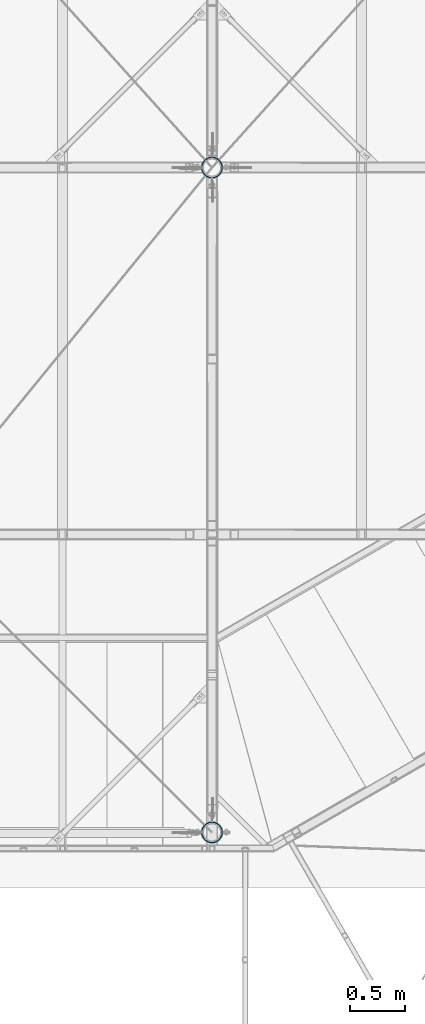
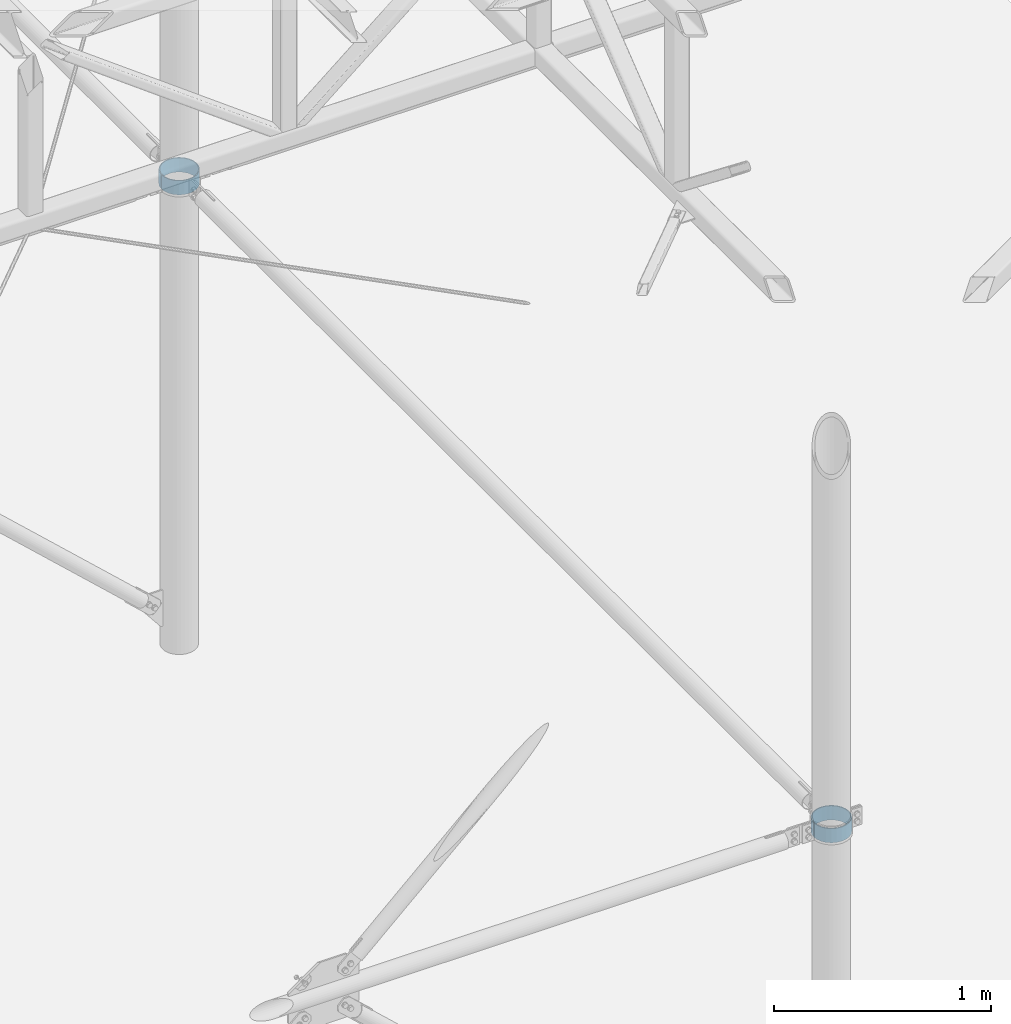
# One storey, part 132 of 132: 2 discrete accessories, 2 elements without a shape of their own.
"""IFC2X3 building model written with IfcOpenShell, lengths in millimetres."""

from ifc_helpers import new_model, si_unit, frame, origin_with_axes, place, context, subcontext, project, spatial, faceted_brep, material, type_object, element, aggregate, save


model = new_model("IFC2X3")

# Units and contexts
model_context = context("Model", 3, precision=1e-05, world=origin_with_axes())
body_context = subcontext(model_context, "Body", "Model", "MODEL_VIEW")
ifc_project = project(units=[si_unit("LENGTHUNIT", "METRE", prefix="MILLI"), si_unit("AREAUNIT", "SQUARE_METRE"), si_unit("VOLUMEUNIT", "CUBIC_METRE"), si_unit("MASSUNIT", "GRAM", prefix="KILO"), si_unit("TIMEUNIT", "SECOND"), si_unit("PLANEANGLEUNIT", "RADIAN"), si_unit("SOLIDANGLEUNIT", "STERADIAN"), si_unit("THERMODYNAMICTEMPERATUREUNIT", "DEGREE_CELSIUS"), si_unit("LUMINOUSINTENSITYUNIT", "LUMEN")], contexts=[model_context])

# Site, building, storey
site_placement = place(None, origin_with_axes())
site = spatial("IfcSite", under=ifc_project, at=site_placement, Name="Budowa", CompositionType="ELEMENT")
building_placement = place(site_placement, origin_with_axes())
building = spatial("IfcBuilding", under=site, at=building_placement, Name="Undefined", CompositionType="ELEMENT")
storey_placement = place(building_placement, origin_with_axes())
storey = spatial("IfcBuildingStorey", under=building, at=storey_placement, Name="Undefined", CompositionType="ELEMENT", Elevation=0.0)

# Assembly, discrete accessory
assembly_1_placement = place(storey_placement, origin_with_axes())
assembly_1 = element("IfcElementAssembly", 1, at=assembly_1_placement, inside=storey, Name="Steel Assembly", AssemblyPlace="NOTDEFINED", PredefinedType="RIGID_FRAME")
ifc_material = material(Name="MISCELLANEOUS/DUMMY")
discrete_accessory_type = type_object("IfcDiscreteAccessoryType", Name="BACKINGBAR")
discrete_accessory_1_placement = place(assembly_1_placement, frame((14732.3677668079, 6001.76776689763, 10116.0003779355), z_axis=(0.0, 0.0, 1.0), x_axis=(0.707106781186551, -0.707106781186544, 0.0)))
discrete_accessory_1 = element("IfcDiscreteAccessory", 2, at=discrete_accessory_1_placement, type_object=discrete_accessory_type, material=ifc_material, Name="BACKINGBAR", ObjectType="BL80*5", context=body_context, shape_type="Brep", body=[
    faceted_brep([(2.30750509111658, 2.63593221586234, 40.0), (-1.22802881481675, -0.899601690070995, 40.0), (-1.22802881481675, -0.899601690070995, -40.0), (2.30750509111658, 2.63593221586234, -40.0), (5.13593221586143, -0.192494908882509, 40.0), (5.13593221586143, -0.192494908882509, -40.0), (1.60039830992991, -3.72802881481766, -40.0), (1.60039830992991, -3.72802881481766, 40.0), (-10.6717911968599, 19.5508804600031, -40.0), (-10.6717911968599, 19.5508804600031, 40.0), (-19.6028891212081, 41.1124581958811, 40.0), (-19.6028891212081, 41.1124581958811, -40.0), (-22.6491203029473, 64.2508812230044, 40.0), (-22.6491203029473, 64.2508812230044, -40.0), (-19.6028891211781, 87.3893042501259, 40.0), (-19.6028891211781, 87.3893042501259, -40.0), (-10.6717911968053, 108.950881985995, 40.0), (-10.6717911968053, 108.950881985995, -40.0), (3.53553390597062, 127.466228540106, -40.0), (3.53553390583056, 127.466228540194, 40.0), (22.0508804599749, 141.673553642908, 40.0), (22.0508804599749, 141.673553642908, -40.0), (43.6124581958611, 150.604651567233, 40.0), (43.6124581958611, 150.604651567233, -40.0), (66.7508812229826, 153.650882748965, 40.0), (66.7508812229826, 153.650882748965, -40.0), (89.8893042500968, 150.604651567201, 40.0), (89.8893042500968, 150.604651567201, -40.0), (111.450881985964, 141.673553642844, 40.0), (111.450881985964, 141.673553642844, -40.0), (129.966228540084, 127.466228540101, 40.0), (129.966228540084, 127.466228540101, -40.0), (144.173553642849, 108.950881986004, 40.0), (144.173553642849, 108.950881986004, -40.0), (153.104651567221, 87.389304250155, 40.0), (153.104651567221, 87.389304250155, -40.0), (156.150882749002, 64.2508812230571, -40.0), (156.150882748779, 64.2508812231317, 40.0), (153.104651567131, 41.1124581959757, 40.0), (153.104651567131, 41.1124581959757, -40.0), (144.173553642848, 19.550880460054, 40.0), (144.173553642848, 19.550880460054, -40.0), (129.966228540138, 1.03553390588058, 40.0), (129.966228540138, 1.03553390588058, -40.0), (111.450881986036, -13.1717911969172, 40.0), (111.450881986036, -13.1717911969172, -40.0), (89.8893042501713, -22.1028891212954, 40.0), (89.8893042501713, -22.1028891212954, -40.0), (66.7508812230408, -25.1491203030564, 40.0), (66.7508812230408, -25.1491203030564, -40.0), (43.612458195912, -22.1028891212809, 40.0), (43.612458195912, -22.1028891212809, -40.0), (22.0508804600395, -13.1717911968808, 40.0), (22.0508804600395, -13.1717911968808, -40.0), (19.5508804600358, -17.5019182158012, -40.0), (19.5508804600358, -17.5019182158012, 40.0), (42.3183629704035, -26.93251825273, -40.0), (42.3183629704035, -26.93251825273, 40.0), (66.7508812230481, -30.14912030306, -40.0), (66.7508812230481, -30.14912030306, 40.0), (91.1833994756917, -26.9325182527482, -40.0), (91.1833994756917, -26.9325182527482, 40.0), (113.950881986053, -17.5019182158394, -40.0), (113.950881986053, -17.5019182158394, 40.0), (133.501762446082, -2.50000000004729, -40.0), (133.501762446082, -2.50000000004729, 40.0), (148.503680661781, 17.0508804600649, -40.0), (148.503680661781, 17.0508804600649, 40.0), (157.934280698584, 39.8183629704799, -40.0), (157.934280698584, 39.8183629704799, 40.0), (161.150882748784, 64.2508812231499, -40.0), (161.150882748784, 64.2508812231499, 40.0), (157.934280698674, 88.6833994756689, -40.0), (157.934280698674, 88.6833994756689, 40.0), (148.503680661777, 111.450881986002, -40.0), (148.503680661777, 111.450881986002, 40.0), (133.501762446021, 131.001762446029, -40.0), (133.501762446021, 131.001762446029, 40.0), (113.950881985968, 146.003680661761, -40.0), (113.950881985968, 146.003680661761, 40.0), (91.1833994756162, 155.434280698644, -40.0), (91.1833994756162, 155.434280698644, 40.0), (66.7508812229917, 158.650882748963, -40.0), (66.7508812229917, 158.650882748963, 40.0), (42.3183629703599, 155.434280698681, -40.0), (42.3183629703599, 155.434280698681, 40.0), (19.5508804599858, 146.003680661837, -40.0), (19.5508804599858, 146.003680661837, 40.0), (-9.36779542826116e-11, 131.001762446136, -40.0), (-9.36779542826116e-11, 131.001762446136, 40.0), (-15.0019182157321, 111.450881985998, -40.0), (-15.0019182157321, 111.450881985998, 40.0), (-24.4325182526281, 88.6833994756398, -40.0), (-24.4325182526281, 88.6833994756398, 40.0), (-27.6491203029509, 64.2508812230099, -40.0), (-27.6491203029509, 64.2508812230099, 40.0), (-24.4325182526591, 39.818362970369, -40.0), (-24.4325182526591, 39.818362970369, 40.0), (-15.0019182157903, 17.0508804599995, -40.0), (-15.0019182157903, 17.0508804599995, 40.0)], [[[0, 1, 2, 3]], [[4, 5, 6, 7]], [[8, 9, 0, 3]], [[10, 9, 8, 11]], [[12, 10, 11, 13]], [[14, 12, 13, 15]], [[16, 14, 15, 17]], [[18, 19, 16, 17]], [[20, 19, 18, 21]], [[22, 20, 21, 23]], [[24, 22, 23, 25]], [[26, 24, 25, 27]], [[28, 26, 27, 29]], [[30, 28, 29, 31]], [[32, 30, 31, 33]], [[34, 32, 33, 35]], [[36, 37, 34, 35]], [[38, 37, 36, 39]], [[40, 38, 39, 41]], [[42, 40, 41, 43]], [[44, 42, 43, 45]], [[46, 44, 45, 47]], [[48, 46, 47, 49]], [[50, 48, 49, 51]], [[52, 50, 51, 53]], [[54, 55, 7, 6]], [[54, 56, 57, 55]], [[56, 58, 59, 57]], [[58, 60, 61, 59]], [[60, 62, 63, 61]], [[62, 64, 65, 63]], [[64, 66, 67, 65]], [[66, 68, 69, 67]], [[68, 70, 71, 69]], [[71, 70, 72, 73]], [[72, 74, 75, 73]], [[74, 76, 77, 75]], [[76, 78, 79, 77]], [[78, 80, 81, 79]], [[80, 82, 83, 81]], [[82, 84, 85, 83]], [[84, 86, 87, 85]], [[86, 88, 89, 87]], [[89, 88, 90, 91]], [[90, 92, 93, 91]], [[92, 94, 95, 93]], [[94, 96, 97, 95]], [[96, 98, 99, 97]], [[99, 98, 2, 1]], [[9, 10, 12, 14, 16, 19, 20, 22, 24, 26, 28, 30, 32, 34, 37, 38, 40, 42, 44, 46, 48, 50, 52, 4, 7, 55, 57, 59, 61, 63, 65, 67, 69, 71, 73, 75, 77, 79, 81, 83, 85, 87, 89, 91, 93, 95, 97, 99, 1, 0]], [[98, 96, 94, 92, 90, 88, 86, 84, 82, 80, 78, 76, 74, 72, 70, 68, 66, 64, 62, 60, 58, 56, 54, 6, 5, 53, 51, 49, 47, 45, 43, 41, 39, 36, 35, 33, 31, 29, 27, 25, 23, 21, 18, 17, 15, 13, 11, 8, 3, 2]], [[52, 53, 5, 4]]]),
])
aggregate(assembly_1, [discrete_accessory_1])

assembly_2_placement = place(storey_placement, origin_with_axes())
assembly_2 = element("IfcElementAssembly", 3, at=assembly_2_placement, inside=storey, Name="Steel Assembly", AssemblyPlace="NOTDEFINED", PredefinedType="RIGID_FRAME")
discrete_accessory_2_placement = place(assembly_2_placement, frame((14732.3677668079, 1.76776689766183, 10116.0003779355), z_axis=(0.0, 0.0, 1.0), x_axis=(0.707106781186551, -0.707106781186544, 0.0)))
discrete_accessory_2 = element("IfcDiscreteAccessory", 4, at=discrete_accessory_2_placement, type_object=discrete_accessory_type, material=ifc_material, Name="BACKINGBAR", ObjectType="BL80*5", context=body_context, shape_type="Brep", body=[
    faceted_brep([(2.30750509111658, 2.63593221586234, 40.0), (-1.22802881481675, -0.899601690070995, 40.0), (-1.22802881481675, -0.899601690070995, -40.0), (2.30750509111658, 2.63593221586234, -40.0), (5.13593221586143, -0.192494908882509, 40.0), (5.13593221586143, -0.192494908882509, -40.0), (1.60039830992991, -3.72802881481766, -40.0), (1.60039830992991, -3.72802881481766, 40.0), (-10.6717911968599, 19.5508804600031, -40.0), (-10.6717911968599, 19.5508804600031, 40.0), (-19.6028891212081, 41.1124581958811, 40.0), (-19.6028891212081, 41.1124581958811, -40.0), (-22.6491203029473, 64.2508812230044, 40.0), (-22.6491203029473, 64.2508812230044, -40.0), (-19.6028891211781, 87.3893042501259, 40.0), (-19.6028891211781, 87.3893042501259, -40.0), (-10.6717911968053, 108.950881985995, 40.0), (-10.6717911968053, 108.950881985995, -40.0), (3.53553390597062, 127.466228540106, -40.0), (3.53553390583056, 127.466228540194, 40.0), (22.0508804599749, 141.673553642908, 40.0), (22.0508804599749, 141.673553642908, -40.0), (43.6124581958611, 150.604651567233, 40.0), (43.6124581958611, 150.604651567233, -40.0), (66.7508812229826, 153.650882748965, 40.0), (66.7508812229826, 153.650882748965, -40.0), (89.8893042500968, 150.604651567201, 40.0), (89.8893042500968, 150.604651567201, -40.0), (111.450881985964, 141.673553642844, 40.0), (111.450881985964, 141.673553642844, -40.0), (129.966228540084, 127.466228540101, 40.0), (129.966228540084, 127.466228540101, -40.0), (144.173553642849, 108.950881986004, 40.0), (144.173553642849, 108.950881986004, -40.0), (153.104651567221, 87.389304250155, 40.0), (153.104651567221, 87.389304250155, -40.0), (156.150882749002, 64.2508812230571, -40.0), (156.150882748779, 64.2508812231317, 40.0), (153.104651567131, 41.1124581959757, 40.0), (153.104651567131, 41.1124581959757, -40.0), (144.173553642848, 19.550880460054, 40.0), (144.173553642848, 19.550880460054, -40.0), (129.966228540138, 1.03553390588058, 40.0), (129.966228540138, 1.03553390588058, -40.0), (111.450881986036, -13.1717911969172, 40.0), (111.450881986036, -13.1717911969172, -40.0), (89.8893042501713, -22.1028891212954, 40.0), (89.8893042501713, -22.1028891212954, -40.0), (66.7508812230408, -25.1491203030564, 40.0), (66.7508812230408, -25.1491203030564, -40.0), (43.612458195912, -22.1028891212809, 40.0), (43.612458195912, -22.1028891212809, -40.0), (22.0508804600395, -13.1717911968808, 40.0), (22.0508804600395, -13.1717911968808, -40.0), (19.5508804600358, -17.5019182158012, -40.0), (19.5508804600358, -17.5019182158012, 40.0), (42.3183629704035, -26.93251825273, -40.0), (42.3183629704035, -26.93251825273, 40.0), (66.7508812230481, -30.14912030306, -40.0), (66.7508812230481, -30.14912030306, 40.0), (91.1833994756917, -26.9325182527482, -40.0), (91.1833994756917, -26.9325182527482, 40.0), (113.950881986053, -17.5019182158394, -40.0), (113.950881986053, -17.5019182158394, 40.0), (133.501762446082, -2.50000000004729, -40.0), (133.501762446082, -2.50000000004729, 40.0), (148.503680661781, 17.0508804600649, -40.0), (148.503680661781, 17.0508804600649, 40.0), (157.934280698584, 39.8183629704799, -40.0), (157.934280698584, 39.8183629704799, 40.0), (161.150882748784, 64.2508812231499, -40.0), (161.150882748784, 64.2508812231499, 40.0), (157.934280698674, 88.6833994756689, -40.0), (157.934280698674, 88.6833994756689, 40.0), (148.503680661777, 111.450881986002, -40.0), (148.503680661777, 111.450881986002, 40.0), (133.501762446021, 131.001762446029, -40.0), (133.501762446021, 131.001762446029, 40.0), (113.950881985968, 146.003680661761, -40.0), (113.950881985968, 146.003680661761, 40.0), (91.1833994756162, 155.434280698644, -40.0), (91.1833994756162, 155.434280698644, 40.0), (66.7508812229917, 158.650882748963, -40.0), (66.7508812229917, 158.650882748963, 40.0), (42.3183629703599, 155.434280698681, -40.0), (42.3183629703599, 155.434280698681, 40.0), (19.5508804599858, 146.003680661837, -40.0), (19.5508804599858, 146.003680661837, 40.0), (-9.36779542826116e-11, 131.001762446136, -40.0), (-9.36779542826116e-11, 131.001762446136, 40.0), (-15.0019182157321, 111.450881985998, -40.0), (-15.0019182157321, 111.450881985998, 40.0), (-24.4325182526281, 88.6833994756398, -40.0), (-24.4325182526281, 88.6833994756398, 40.0), (-27.6491203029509, 64.2508812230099, -40.0), (-27.6491203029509, 64.2508812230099, 40.0), (-24.4325182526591, 39.818362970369, -40.0), (-24.4325182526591, 39.818362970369, 40.0), (-15.0019182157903, 17.0508804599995, -40.0), (-15.0019182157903, 17.0508804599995, 40.0)], [[[0, 1, 2, 3]], [[4, 5, 6, 7]], [[8, 9, 0, 3]], [[10, 9, 8, 11]], [[12, 10, 11, 13]], [[14, 12, 13, 15]], [[16, 14, 15, 17]], [[18, 19, 16, 17]], [[20, 19, 18, 21]], [[22, 20, 21, 23]], [[24, 22, 23, 25]], [[26, 24, 25, 27]], [[28, 26, 27, 29]], [[30, 28, 29, 31]], [[32, 30, 31, 33]], [[34, 32, 33, 35]], [[36, 37, 34, 35]], [[38, 37, 36, 39]], [[40, 38, 39, 41]], [[42, 40, 41, 43]], [[44, 42, 43, 45]], [[46, 44, 45, 47]], [[48, 46, 47, 49]], [[50, 48, 49, 51]], [[52, 50, 51, 53]], [[54, 55, 7, 6]], [[54, 56, 57, 55]], [[56, 58, 59, 57]], [[58, 60, 61, 59]], [[60, 62, 63, 61]], [[62, 64, 65, 63]], [[64, 66, 67, 65]], [[66, 68, 69, 67]], [[68, 70, 71, 69]], [[71, 70, 72, 73]], [[72, 74, 75, 73]], [[74, 76, 77, 75]], [[76, 78, 79, 77]], [[78, 80, 81, 79]], [[80, 82, 83, 81]], [[82, 84, 85, 83]], [[84, 86, 87, 85]], [[86, 88, 89, 87]], [[89, 88, 90, 91]], [[90, 92, 93, 91]], [[92, 94, 95, 93]], [[94, 96, 97, 95]], [[96, 98, 99, 97]], [[99, 98, 2, 1]], [[9, 10, 12, 14, 16, 19, 20, 22, 24, 26, 28, 30, 32, 34, 37, 38, 40, 42, 44, 46, 48, 50, 52, 4, 7, 55, 57, 59, 61, 63, 65, 67, 69, 71, 73, 75, 77, 79, 81, 83, 85, 87, 89, 91, 93, 95, 97, 99, 1, 0]], [[98, 96, 94, 92, 90, 88, 86, 84, 82, 80, 78, 76, 74, 72, 70, 68, 66, 64, 62, 60, 58, 56, 54, 6, 5, 53, 51, 49, 47, 45, 43, 41, 39, 36, 35, 33, 31, 29, 27, 25, 23, 21, 18, 17, 15, 13, 11, 8, 3, 2]], [[52, 53, 5, 4]]]),
])
aggregate(assembly_2, [discrete_accessory_2])

save(model, "model.ifc")
